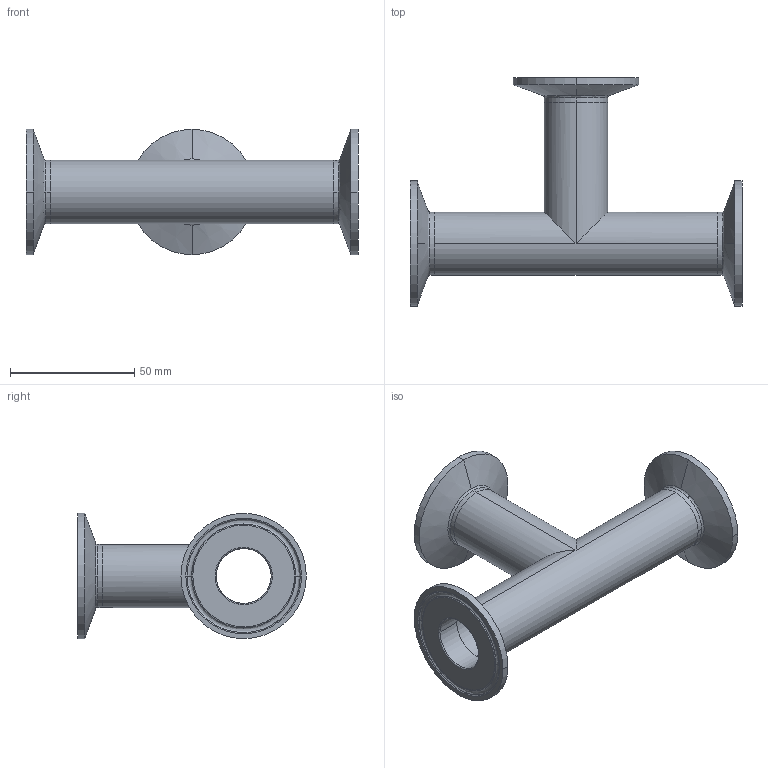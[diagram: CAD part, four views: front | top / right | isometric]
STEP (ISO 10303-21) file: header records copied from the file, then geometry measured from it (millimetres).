
FILE_DESCRIPTION (( 'STEP AP214' ), '1' );
FILE_NAME ('TEG76L1.0-...STEP', '2016-05-23T06:41:41', ( 'eran' ), ( '' ), 'SwSTEP 2.0', 'SolidWorks 2016', '' );
FILE_SCHEMA (( 'AUTOMOTIVE_DESIGN' ));
Length unit declared in the file: millimetre
Products named in the file (1): TEG76L1.0-..
Bounding box: 133.4 x 91.9 x 50.39 mm (x, y, z)
Volume: 43981 mm3; surface area: 37654.3 mm2
Topology: 4 solids, 4 shells, 88 faces, 220 edges, 142 vertices
Faces by surface type: bspline 30, cylinder 28, cone 18, plane 12
Entity records: 4277 total; most frequent: CARTESIAN_POINT 2119, DIRECTION 466, ORIENTED_EDGE 440, EDGE_CURVE 220, AXIS2_PLACEMENT_3D 209, CIRCLE 150, VERTEX_POINT 142, EDGE_LOOP 100
